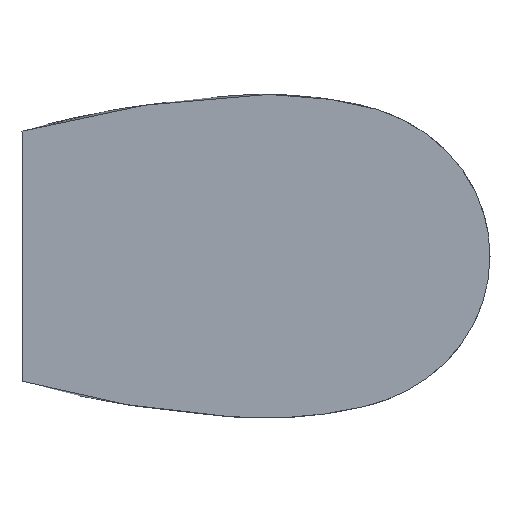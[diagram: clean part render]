
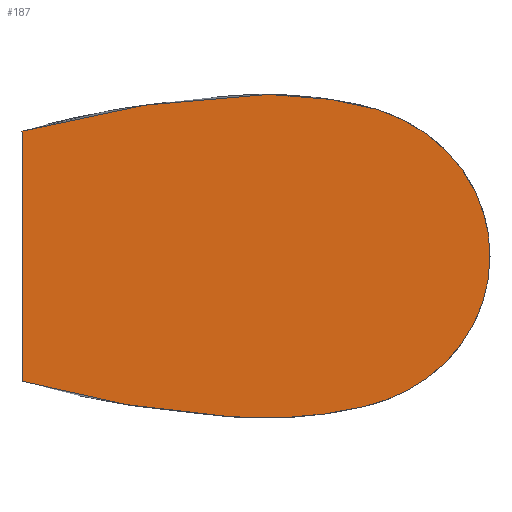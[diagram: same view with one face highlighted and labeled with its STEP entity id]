
A CAD part, left-side view. The second image highlights one B-rep face of the part: STEP entity #187.
In plain terms, the highlighted planar face has unit normal (-1, 0, 0).
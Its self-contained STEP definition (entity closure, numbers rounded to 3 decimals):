
#6=DIRECTION('',(0.,0.,1.));
#7=VECTOR('',#6,1.9);
#8=CARTESIAN_POINT('',(-9.,-0.3,-0.95));
#9=LINE('',#8,#7);
#10=CARTESIAN_POINT('',(-9.,-0.3,0.95));
#11=CARTESIAN_POINT('',(-9.,-0.444,0.992));
#12=CARTESIAN_POINT('',(-9.,-0.662,1.047));
#13=CARTESIAN_POINT('',(-9.,-0.955,1.105));
#14=CARTESIAN_POINT('',(-9.,-1.176,1.142));
#15=CARTESIAN_POINT('',(-9.,-1.401,1.169));
#16=CARTESIAN_POINT('',(-9.,-1.59,1.188));
#17=CARTESIAN_POINT('',(-9.,-1.743,1.207));
#18=CARTESIAN_POINT('',(-9.,-1.901,1.222));
#19=CARTESIAN_POINT('',(-9.,-2.115,1.232));
#20=CARTESIAN_POINT('',(-9.,-2.339,1.226));
#21=CARTESIAN_POINT('',(-9.,-2.531,1.208));
#22=CARTESIAN_POINT('',(-9.,-2.678,1.187));
#23=CARTESIAN_POINT('',(-9.,-2.825,1.159));
#24=CARTESIAN_POINT('',(-9.,-3.022,1.114));
#25=CARTESIAN_POINT('',(-9.,-3.212,1.035));
#26=CARTESIAN_POINT('',(-9.,-3.384,0.924));
#27=CARTESIAN_POINT('',(-9.,-3.502,0.825));
#28=CARTESIAN_POINT('',(-9.,-3.607,0.711));
#29=CARTESIAN_POINT('',(-9.,-3.695,0.585));
#30=CARTESIAN_POINT('',(-9.,-3.766,0.447));
#31=CARTESIAN_POINT('',(-9.,-3.817,0.302));
#32=CARTESIAN_POINT('',(-9.,-3.848,0.152));
#33=CARTESIAN_POINT('',(-9.,-3.855,0.051));
#34=CARTESIAN_POINT('',(-9.,-3.855,0.));
#36=CARTESIAN_POINT('',(-9.,-3.855,0.));
#37=CARTESIAN_POINT('',(-9.,-3.855,-0.051));
#38=CARTESIAN_POINT('',(-9.,-3.848,-0.152));
#39=CARTESIAN_POINT('',(-9.,-3.817,-0.302));
#40=CARTESIAN_POINT('',(-9.,-3.766,-0.447));
#41=CARTESIAN_POINT('',(-9.,-3.695,-0.585));
#42=CARTESIAN_POINT('',(-9.,-3.607,-0.711));
#43=CARTESIAN_POINT('',(-9.,-3.502,-0.825));
#44=CARTESIAN_POINT('',(-9.,-3.384,-0.924));
#45=CARTESIAN_POINT('',(-9.,-3.212,-1.035));
#46=CARTESIAN_POINT('',(-9.,-3.022,-1.114));
#47=CARTESIAN_POINT('',(-9.,-2.825,-1.159));
#48=CARTESIAN_POINT('',(-9.,-2.678,-1.187));
#49=CARTESIAN_POINT('',(-9.,-2.531,-1.208));
#50=CARTESIAN_POINT('',(-9.,-2.339,-1.226));
#51=CARTESIAN_POINT('',(-9.,-2.115,-1.232));
#52=CARTESIAN_POINT('',(-9.,-1.901,-1.222));
#53=CARTESIAN_POINT('',(-9.,-1.743,-1.207));
#54=CARTESIAN_POINT('',(-9.,-1.59,-1.188));
#55=CARTESIAN_POINT('',(-9.,-1.401,-1.169));
#56=CARTESIAN_POINT('',(-9.,-1.176,-1.142));
#57=CARTESIAN_POINT('',(-9.,-0.955,-1.105));
#58=CARTESIAN_POINT('',(-9.,-0.662,-1.047));
#59=CARTESIAN_POINT('',(-9.,-0.444,-0.992));
#60=CARTESIAN_POINT('',(-9.,-0.3,-0.95));
#152=CARTESIAN_POINT('',(-9.,-0.3,-0.95));
#153=CARTESIAN_POINT('',(-9.,-0.3,0.95));
#154=VERTEX_POINT('',#152);
#155=VERTEX_POINT('',#153);
#156=VERTEX_POINT('',#36);
#175=CARTESIAN_POINT('',(-9.,0.,0.));
#176=DIRECTION('',(1.,0.,0.));
#177=DIRECTION('',(0.,0.,-1.));
#178=AXIS2_PLACEMENT_3D('',#175,#176,#177);
#179=PLANE('',#178);
#180=ORIENTED_EDGE('',*,*,#162,.T.);
#182=ORIENTED_EDGE('',*,*,#181,.T.);
#184=ORIENTED_EDGE('',*,*,#183,.T.);
#185=EDGE_LOOP('',(#180,#182,#184));
#186=FACE_OUTER_BOUND('',#185,.F.);
#187=ADVANCED_FACE('',(#186),#179,.F.);
#35=B_SPLINE_CURVE_WITH_KNOTS('',3,(#10,#11,#12,#13,#14,#15,#16,#17,#18,#19,#20,
#21,#22,#23,#24,#25,#26,#27,#28,#29,#30,#31,#32,#33,#34),.UNSPECIFIED.,.F.,.F.,(
4,1,1,1,1,1,1,1,1,1,1,1,1,1,1,1,1,1,1,1,1,1,4),(0.,0.106,
0.159,0.212,0.265,0.319,
0.346,0.374,0.431,0.498,
0.532,0.567,0.603,0.638,
0.71,0.747,0.783,0.819,
0.856,0.892,0.928,0.964,1.),
.UNSPECIFIED.);
#61=B_SPLINE_CURVE_WITH_KNOTS('',3,(#36,#37,#38,#39,#40,#41,#42,#43,#44,#45,#46,
#47,#48,#49,#50,#51,#52,#53,#54,#55,#56,#57,#58,#59,#60),.UNSPECIFIED.,.F.,.F.,(
4,1,1,1,1,1,1,1,1,1,1,1,1,1,1,1,1,1,1,1,1,1,4),(0.,0.036,
0.072,0.108,0.144,0.181,
0.217,0.253,0.29,0.362,
0.397,0.433,0.468,0.502,
0.569,0.626,0.654,0.681,
0.735,0.788,0.841,0.894,1.),
.UNSPECIFIED.);
#162=EDGE_CURVE('',#154,#155,#9,.T.);
#181=EDGE_CURVE('',#155,#156,#35,.T.);
#183=EDGE_CURVE('',#156,#154,#61,.T.);
